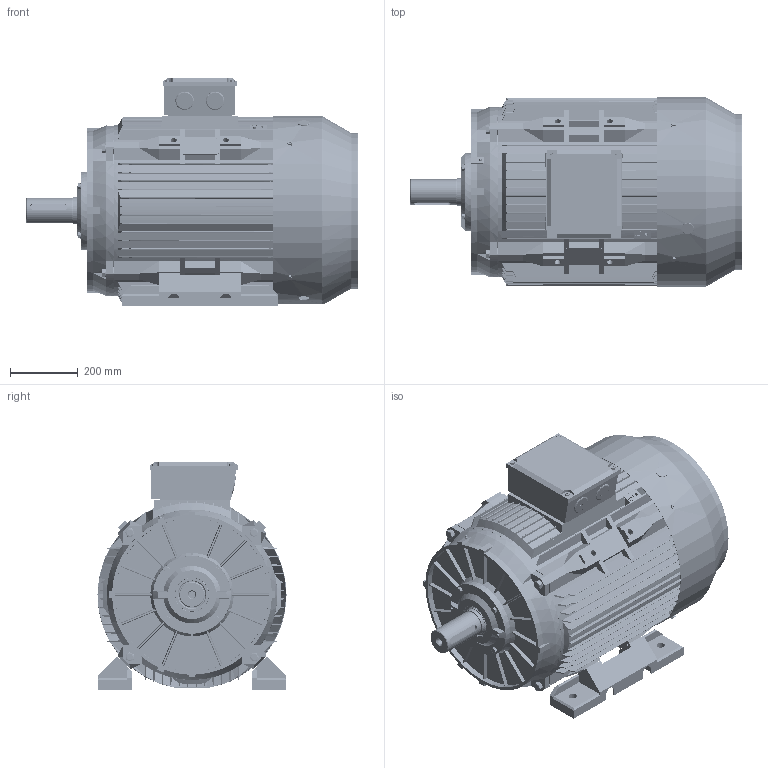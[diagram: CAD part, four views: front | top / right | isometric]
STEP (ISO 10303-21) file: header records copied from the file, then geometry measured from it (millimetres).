
FILE_DESCRIPTION (( 'STEP AP203' ), '1' );
FILE_NAME ('TC 280S B3 外形图.STEP', '2014-12-11T08:10:58', ( '微软用户' ), ( '微软中国' ), 'SwSTEP 2.0', 'SolidWorks 2008', '' );
FILE_SCHEMA (( 'CONFIG_CONTROL_DESIGN' ));
Length unit declared in the file: millimetre
Products named in the file (23): TC280 B3前端盖(170)_默认; TC280 B3后端盖(170)_默认; 6316_默认; 油封80-100-10_默认; 10_默认; 16_默认; M8-12_默认; TC 250-280S接线盒座_默认; TC 250-280S接线盒盖_默认; TC 280S B3 俋倛芞; TC 280S B5机座_默认; TC 280 轴承外盖DE_默认; TC 280 轴承外盖NDE_默认; TC 280S-4 转子_默认; TC 280S-4P转轴_默认; TC280S 底脚_默认; TC 280 风罩_默认; M16-50_默认; M10-80_默认; M8-20_默认; 螺塞M50_默认; 扣塞_默认; 铜油嘴_默认
Assembly tree (43 placements, depth 3):
  TC 280S B3 俋倛芞
    TC280S 底脚_默认  x2
    TC 280 轴承外盖DE_默认
    螺塞M50_默认  x2
    M10-80_默认  x4
    10_默认  x4
    M16-50_默认  x4
    16_默认  x4
    M8-20_默认  x4
    TC 280S B5机座_默认
    TC280 B3后端盖(170)_默认
    M8-12_默认  x4
    TC 280S-4 转子_默认
      6316_默认  x2
      TC 280S-4P转轴_默认
    TC 250-280S接线盒盖_默认
    TC 280 风罩_默认
    TC280 B3前端盖(170)_默认
    铜油嘴_默认
    TC 250-280S接线盒座_默认
    油封80-100-10_默认
    TC 280 轴承外盖NDE_默认
    扣塞_默认
Bounding box: 981.2 x 559 x 671.14 mm (x, y, z)
Volume: 35450888.2 mm3; surface area: 6851111.9 mm2
Topology: 43 solids, 44 shells, 9955 faces, 29188 edges, 19317 vertices
Faces by surface type: plane 5042, cylinder 4235, cone 319, torus 182, bspline 115, sphere 62
Entity records: 331694 total; most frequent: CARTESIAN_POINT 71961, ORIENTED_EDGE 54674, DIRECTION 53066, EDGE_CURVE 27337, VERTEX_POINT 18132, AXIS2_PLACEMENT_3D 18001, VECTOR 17064, LINE 17064
